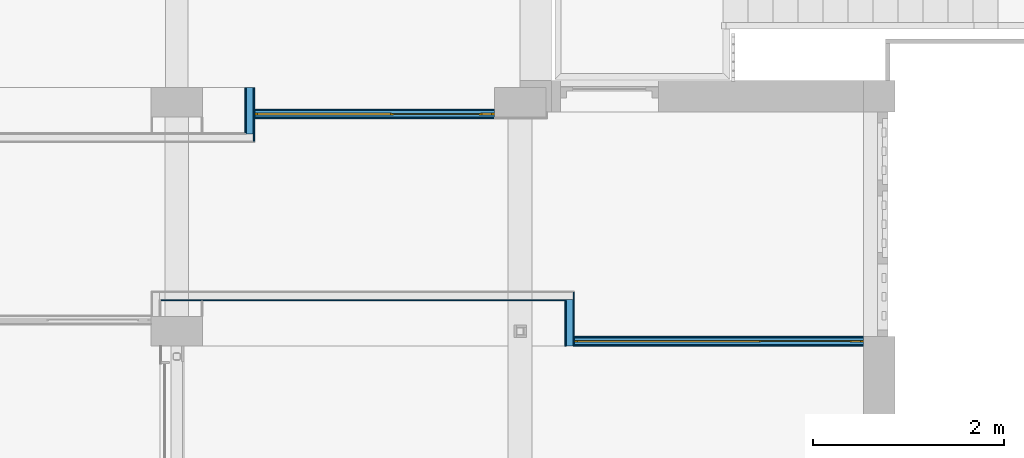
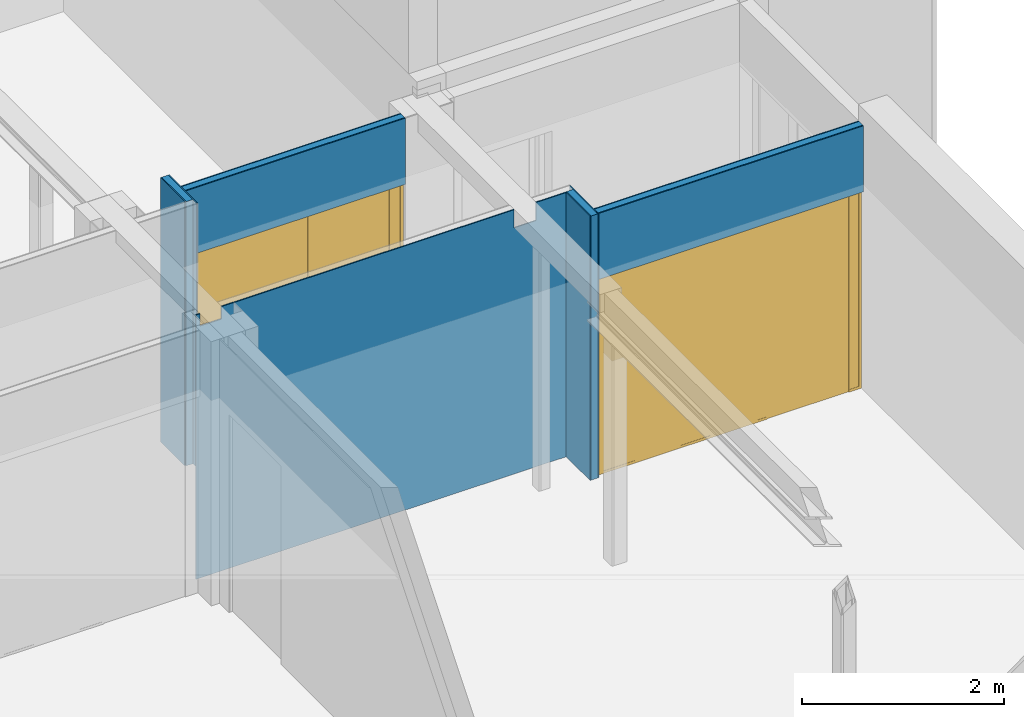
# One storey, part 87 of 117: 13 building element parts, 2 doors, 2 openings, 5 elements without a shape of their own.
"""IFC2X3 building model written with IfcOpenShell, lengths in millimetres."""

from ifc_helpers import new_model, entity, si_unit, converted_unit, derived_unit, money_unit, direction, frame, origin_with_axes, place, context, subcontext, project, spatial, open_shell, faceted_brep, surface_model, material, type_object, element, fill, aggregate, save


model = new_model("IFC2X3")

# Units and contexts
model_context = context("Model", 3, precision=0.01, world=origin_with_axes(), true_north=direction((0.0, 1.0)))
body_context = subcontext(model_context, "Body", "Model", "MODEL_VIEW")
ifc_project = project(units=[si_unit("LENGTHUNIT", "METRE", prefix="MILLI"), si_unit("AREAUNIT", "SQUARE_METRE"), si_unit("VOLUMEUNIT", "CUBIC_METRE"), converted_unit("PLANEANGLEUNIT", "DEGREE", entity("IfcPlaneAngleMeasure", 0.0174532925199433), si_unit("PLANEANGLEUNIT", "RADIAN"), dimensions=[0, 0, 0, 0, 0, 0, 0]), money_unit("EUR"), converted_unit("TIMEUNIT", "Year", entity("IfcTimeMeasure", 31557600.0), si_unit("TIMEUNIT", "SECOND"), dimensions=[0, 0, 1, 0, 0, 0, 0]), si_unit("MASSUNIT", "GRAM", prefix="KILO"), si_unit("THERMODYNAMICTEMPERATUREUNIT", "DEGREE_CELSIUS"), si_unit("LUMINOUSINTENSITYUNIT", "LUMEN"), si_unit("ENERGYUNIT", "JOULE", prefix="MEGA"), derived_unit("THERMALCONDUCTANCEUNIT", [(si_unit("POWERUNIT", "WATT"), 1), (si_unit("LENGTHUNIT", "METRE"), -1), (si_unit("THERMODYNAMICTEMPERATUREUNIT", "KELVIN"), -1)]), derived_unit("SPECIFICHEATCAPACITYUNIT", [(si_unit("ENERGYUNIT", "JOULE"), 1), (si_unit("MASSUNIT", "GRAM", prefix="KILO"), -1), (si_unit("THERMODYNAMICTEMPERATUREUNIT", "KELVIN"), -1)]), derived_unit("MASSDENSITYUNIT", [(si_unit("MASSUNIT", "GRAM", prefix="KILO"), 1), (si_unit("VOLUMEUNIT", "CUBIC_METRE"), -1)])], contexts=[model_context])

# Site, building, storey
site_placement = place(None, origin_with_axes())
site = spatial("IfcSite", under=ifc_project, at=site_placement, Name="Site", CompositionType="ELEMENT")
building_placement = place(site_placement, origin_with_axes())
building = spatial("IfcBuilding", under=site, at=building_placement, Name="Naam gebouw", CompositionType="ELEMENT")
storey_placement = place(building_placement, frame((0.0, 0.0, 4150.0), z_axis=(0.0, 0.0, 1.0), x_axis=(1.0, 0.0, 0.0)))
storey = spatial("IfcBuildingStorey", under=building, at=storey_placement, Name="1e verdieping N", CompositionType="ELEMENT", Elevation=4150.0)

# Door
door_style = type_object("IfcDoorStyle", Name="D1 zl2 27", ConstructionType="NOTDEFINED", OperationType="USERDEFINED", ParameterTakesPrecedence=False, Sizeable=False)
wall_4_placement = place(storey_placement, frame((51215.00000000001, 20305.91242510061, 0.0), z_axis=(0.0, 0.0, 1.0), x_axis=(1.0, 0.0, 0.0)))
opening_1_placement = place(wall_4_placement, frame((1257.499999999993, 0.0, 0.0), z_axis=(0.0, 0.0, 1.0), x_axis=(1.0, 0.0, 0.0)))
door_1_placement = place(opening_1_placement, frame((-1257.499999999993, 0.0, 0.0), z_axis=(0.0, 0.0, 1.0), x_axis=(1.0, 0.0, 0.0)))
door_1 = element("IfcDoor", 1, at=door_1_placement, inside=storey, type_object=door_style, Name="_Merk-x", ObjectType="DOOR", OverallHeight=2400.0, OverallWidth=2515.0, context=body_context, shape_type="SurfaceModel", body=[
    faceted_brep([(0.0, 9.99999999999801, 0.0), (30.00000000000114, 9.99999999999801, 0.0), (30.00000000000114, -10.00000000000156, 0.0), (0.0, -10.00000000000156, 0.0), (0.0, 9.99999999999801, 2370.0), (30.00000000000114, 9.99999999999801, 2370.0), (30.00000000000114, 9.99999999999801, 30.00000000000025), (30.00000000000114, -10.00000000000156, 30.00000000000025), (30.00000000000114, -10.00000000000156, 2370.0), (0.0, -10.00000000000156, 2370.0)], [[[0, 1, 2, 3]], [[0, 4, 5, 6, 1]], [[1, 6, 7, 2]], [[3, 2, 7, 8, 9]], [[4, 0, 3, 9]], [[5, 4, 9, 8]], [[6, 5, 8, 7]]]),
    faceted_brep([(1454.999999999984, -9.000000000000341, 0.0), (1454.999999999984, -9.000000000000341, 2370.0), (1454.999999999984, -10.00000000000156, 2370.0), (1454.999999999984, -10.00000000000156, 0.0), (1437.999999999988, -9.000000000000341, 2370.0), (1437.999999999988, -9.000000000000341, 0.0), (1437.999999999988, 9.99999999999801, 2370.0), (1424.999999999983, 9.99999999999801, 2370.0), (1424.999999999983, -10.00000000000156, 2370.0), (1424.999999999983, -10.00000000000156, 0.0), (1424.999999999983, -10.00000000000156, 30.00000000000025), (1424.999999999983, 9.99999999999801, 0.0), (1437.999999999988, 9.99999999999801, 0.0), (1424.999999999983, 9.99999999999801, 30.00000000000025)], [[[0, 1, 2, 3]], [[4, 1, 0, 5]], [[4, 6, 7, 8, 2, 1]], [[9, 3, 2, 8, 10]], [[5, 0, 3, 9, 11, 12]], [[6, 4, 5, 12]], [[6, 12, 11, 13, 7]], [[13, 10, 8, 7]], [[11, 9, 10, 13]]]),
    faceted_brep([(30.00000000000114, 9.99999999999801, 30.00000000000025), (30.00000000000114, 9.99999999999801, 0.0), (30.00000000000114, -10.00000000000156, 0.0), (30.00000000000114, -10.00000000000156, 30.00000000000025), (1424.999999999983, 9.99999999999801, 30.00000000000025), (1424.999999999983, 9.99999999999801, 0.0), (1424.999999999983, -10.00000000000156, 0.0), (1424.999999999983, -10.00000000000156, 30.00000000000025)], [[[0, 1, 2, 3]], [[0, 4, 5, 1]], [[1, 5, 6, 2]], [[3, 2, 6, 7]], [[4, 0, 3, 7]], [[5, 4, 7, 6]]]),
    faceted_brep([(2514.999999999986, 9.99999999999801, 0.0), (2514.999999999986, 9.99999999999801, 2370.0), (2514.999999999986, -10.00000000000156, 2370.0), (2514.999999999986, -10.00000000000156, 0.0), (2484.999999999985, 9.99999999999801, 0.0), (2484.999999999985, 9.99999999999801, 30.00000000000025), (2484.999999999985, 9.99999999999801, 2370.0), (2484.999999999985, -10.00000000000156, 2370.0), (2484.999999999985, -10.00000000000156, 30.00000000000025), (2484.999999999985, -10.00000000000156, 0.0)], [[[0, 1, 2, 3]], [[0, 4, 5, 6, 1]], [[1, 6, 7, 2]], [[3, 2, 7, 8, 9]], [[4, 0, 3, 9]], [[5, 4, 9, 8]], [[6, 5, 8, 7]]]),
    faceted_brep([(2371.999999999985, -9.000000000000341, 2370.0), (2354.999999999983, -9.000000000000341, 2370.0), (2354.999999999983, -10.00000000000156, 2370.0), (2384.999999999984, -10.00000000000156, 2370.0), (2384.999999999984, 9.99999999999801, 2370.0), (2371.999999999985, 9.99999999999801, 2370.0), (2371.999999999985, -9.000000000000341, 0.0), (2354.999999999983, -9.000000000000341, 0.0), (2354.999999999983, -10.00000000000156, 0.0), (2384.999999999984, -10.00000000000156, 0.0), (2384.999999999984, -10.00000000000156, 30.00000000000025), (2384.999999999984, 9.99999999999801, 30.00000000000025), (2371.999999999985, 9.99999999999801, 0.0), (2384.999999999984, 9.99999999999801, 0.0)], [[[0, 1, 2, 3, 4, 5]], [[1, 0, 6, 7]], [[1, 7, 8, 2]], [[8, 9, 10, 3, 2]], [[4, 3, 10, 11]], [[12, 5, 4, 11, 13]], [[0, 5, 12, 6]], [[6, 12, 13, 9, 8, 7]], [[11, 10, 9, 13]]]),
    faceted_brep([(2384.999999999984, 9.99999999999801, 30.00000000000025), (2384.999999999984, 9.99999999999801, 0.0), (2384.999999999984, -10.00000000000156, 0.0), (2384.999999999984, -10.00000000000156, 30.00000000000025), (2484.999999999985, 9.99999999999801, 30.00000000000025), (2484.999999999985, 9.99999999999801, 0.0), (2484.999999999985, -10.00000000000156, 0.0), (2484.999999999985, -10.00000000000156, 30.00000000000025)], [[[0, 1, 2, 3]], [[0, 4, 5, 1]], [[1, 5, 6, 2]], [[3, 2, 6, 7]], [[4, 0, 3, 7]], [[5, 4, 7, 6]]]),
    faceted_brep([(1437.999999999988, 9.99999999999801, 2387.0), (1437.999999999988, 9.99999999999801, 2370.0), (1424.999999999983, 9.99999999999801, 2370.0), (30.00000000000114, 9.99999999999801, 2370.0), (0.0, 9.99999999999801, 2370.0), (0.0, 9.99999999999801, 2400.0), (2514.999999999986, 9.99999999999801, 2400.0), (2514.999999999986, 9.99999999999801, 2370.0), (2484.999999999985, 9.99999999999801, 2370.0), (2384.999999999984, 9.99999999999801, 2370.0), (2371.999999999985, 9.99999999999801, 2370.0), (2371.999999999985, 9.99999999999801, 2387.0), (1437.999999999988, -9.000000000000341, 2387.0), (1437.999999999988, -9.000000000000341, 2370.0), (2354.999999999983, -9.000000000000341, 2370.0), (2354.999999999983, -10.00000000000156, 2370.0), (1454.999999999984, -10.00000000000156, 2370.0), (1424.999999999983, -10.00000000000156, 2370.0), (30.00000000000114, -10.00000000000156, 2370.0), (0.0, -10.00000000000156, 2370.0), (0.0, -10.00000000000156, 2400.0), (2514.999999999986, -10.00000000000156, 2400.0), (2514.999999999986, -10.00000000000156, 2370.0), (2484.999999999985, -10.00000000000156, 2370.0), (2371.999999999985, -9.000000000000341, 2370.0), (2384.999999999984, -10.00000000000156, 2370.0), (2371.999999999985, -9.000000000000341, 2387.0)], [[[0, 1, 2, 3, 4, 5, 6, 7, 8, 9, 10, 11]], [[1, 0, 12, 13]], [[13, 14, 15, 16, 17, 2, 1]], [[2, 17, 18, 3]], [[3, 18, 19, 4]], [[4, 19, 20, 5]], [[5, 20, 21, 6]], [[6, 21, 22, 7]], [[7, 22, 23, 8]], [[24, 10, 9, 8, 23, 25, 15, 14]], [[11, 10, 24, 26]], [[0, 11, 26, 12]], [[24, 14, 13, 12, 26]], [[23, 22, 21, 20, 19, 18, 17, 16, 15, 25]]]),
    faceted_brep([(2371.999999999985, 0.9999999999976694, 0.0), (2371.999999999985, -9.000000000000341, 0.0), (1437.999999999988, -9.000000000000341, 0.0), (1437.999999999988, 0.9999999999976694, 0.0), (2371.999999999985, 0.9999999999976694, 2387.0), (2371.999999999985, -9.000000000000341, 2387.0), (1437.999999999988, -9.000000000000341, 2387.0), (1437.999999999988, 0.9999999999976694, 2387.0)], [[[0, 1, 2, 3]], [[4, 5, 1, 0]], [[1, 5, 6, 2]], [[3, 2, 6, 7]], [[0, 3, 7, 4]], [[7, 6, 5, 4]]]),
    surface_model("IfcShellBasedSurfaceModel", [(30.00000000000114, 8.999999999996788, 30.00000000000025), (30.00000000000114, 8.999999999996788, 2370.0), (1424.999999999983, 8.999999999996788, 2370.0), (1424.999999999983, 8.999999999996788, 30.00000000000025)], [open_shell([[[0, 1, 2, 3]]])]),
    surface_model("IfcShellBasedSurfaceModel", [(30.00000000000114, 0.9999999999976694, 30.00000000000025), (1424.999999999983, 0.9999999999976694, 30.00000000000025), (1424.999999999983, 0.9999999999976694, 2370.0), (30.00000000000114, 0.9999999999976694, 2370.0)], [open_shell([[[0, 1, 2, 3]]])]),
    surface_model("IfcShellBasedSurfaceModel", [(2384.999999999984, 8.999999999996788, 30.00000000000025), (2384.999999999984, 8.999999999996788, 2370.0), (2484.999999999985, 8.999999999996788, 2370.0), (2484.999999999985, 8.999999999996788, 30.00000000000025)], [open_shell([[[0, 1, 2, 3]]])]),
    surface_model("IfcShellBasedSurfaceModel", [(2384.999999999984, 0.9999999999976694, 30.00000000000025), (2484.999999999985, 0.9999999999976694, 30.00000000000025), (2484.999999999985, 0.9999999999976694, 2370.0), (2384.999999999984, 0.9999999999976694, 2370.0)], [open_shell([[[0, 1, 2, 3]]])]),
])

wall_5_placement = place(storey_placement, frame((54569.99999999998, 17920.91242510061, 0.0), z_axis=(0.0, 0.0, 1.0), x_axis=(1.0, 0.0, 0.0)))
opening_2_placement = place(wall_5_placement, frame((1515.000000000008, 0.0, 0.0), z_axis=(0.0, 0.0, 1.0), x_axis=(1.0, 0.0, 0.0)))
door_2_placement = place(opening_2_placement, frame((1515.000000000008, 0.0, 0.0), z_axis=(0.0, 0.0, 1.0), x_axis=(-1.0, 0.0, 0.0)))
door_2 = element("IfcDoor", 2, at=door_2_placement, inside=storey, type_object=door_style, Name="_Merk-x", ObjectType="DOOR", OverallHeight=2400.0, OverallWidth=3030.0, context=body_context, shape_type="SurfaceModel", body=[
    faceted_brep([(3030.000000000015, 10.00000000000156, 0.0), (3030.000000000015, -9.99999999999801, 0.0), (3000.000000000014, -9.99999999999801, 0.0), (3000.000000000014, 10.00000000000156, 0.0), (3030.000000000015, 10.00000000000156, 2370.0), (3030.000000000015, -9.99999999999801, 2370.0), (3000.000000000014, -9.99999999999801, 2370.0), (3000.000000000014, -9.99999999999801, 30.00000000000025), (3000.000000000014, 10.00000000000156, 30.00000000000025), (3000.000000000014, 10.00000000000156, 2370.0)], [[[0, 1, 2, 3]], [[4, 5, 1, 0]], [[1, 5, 6, 7, 2]], [[3, 2, 7, 8]], [[0, 3, 8, 9, 4]], [[9, 6, 5, 4]], [[8, 7, 6, 9]]]),
    faceted_brep([(1060.000000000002, -8.999999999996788, 0.0), (1060.000000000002, -9.99999999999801, 0.0), (1060.000000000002, -9.99999999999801, 2370.0), (1060.000000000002, -8.999999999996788, 2370.0), (1076.999999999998, -8.999999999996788, 0.0), (1076.999999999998, 10.00000000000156, 0.0), (1090.000000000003, 10.00000000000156, 0.0), (1090.000000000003, -9.99999999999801, 0.0), (1090.000000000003, -9.99999999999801, 30.00000000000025), (1090.000000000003, -9.99999999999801, 2370.0), (1076.999999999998, -8.999999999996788, 2370.0), (1090.000000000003, 10.00000000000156, 2370.0), (1076.999999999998, 10.00000000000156, 2370.0), (1090.000000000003, 10.00000000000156, 30.00000000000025)], [[[0, 1, 2, 3]], [[4, 5, 6, 7, 1, 0]], [[7, 8, 9, 2, 1]], [[10, 3, 2, 9, 11, 12]], [[10, 4, 0, 3]], [[12, 5, 4, 10]], [[12, 11, 13, 6, 5]], [[6, 13, 8, 7]], [[13, 11, 9, 8]]]),
    faceted_brep([(3000.000000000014, 10.00000000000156, 30.00000000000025), (3000.000000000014, -9.99999999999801, 30.00000000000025), (3000.000000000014, -9.99999999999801, 0.0), (3000.000000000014, 10.00000000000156, 0.0), (1090.000000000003, 10.00000000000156, 30.00000000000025), (1090.000000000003, -9.99999999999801, 30.00000000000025), (1090.000000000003, -9.99999999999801, 0.0), (1090.000000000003, 10.00000000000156, 0.0)], [[[0, 1, 2, 3]], [[4, 5, 1, 0]], [[1, 5, 6, 2]], [[3, 2, 6, 7]], [[0, 3, 7, 4]], [[7, 6, 5, 4]]]),
    faceted_brep([(0.0, 10.00000000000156, 0.0), (0.0, -9.99999999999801, 0.0), (0.0, -9.99999999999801, 2370.0), (0.0, 10.00000000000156, 2370.0), (30.00000000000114, 10.00000000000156, 0.0), (30.00000000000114, -9.99999999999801, 0.0), (30.00000000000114, -9.99999999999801, 30.00000000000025), (30.00000000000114, -9.99999999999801, 2370.0), (30.00000000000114, 10.00000000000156, 2370.0), (30.00000000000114, 10.00000000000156, 30.00000000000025)], [[[0, 1, 2, 3]], [[4, 5, 1, 0]], [[1, 5, 6, 7, 2]], [[3, 2, 7, 8]], [[0, 3, 8, 9, 4]], [[9, 6, 5, 4]], [[8, 7, 6, 9]]]),
    faceted_brep([(143.0000000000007, -8.999999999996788, 2370.0), (143.0000000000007, 10.00000000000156, 2370.0), (130.0000000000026, 10.00000000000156, 2370.0), (130.0000000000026, -9.99999999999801, 2370.0), (160.0000000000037, -9.99999999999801, 2370.0), (160.0000000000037, -8.999999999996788, 2370.0), (143.0000000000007, -8.999999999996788, 0.0), (143.0000000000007, 10.00000000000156, 0.0), (130.0000000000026, 10.00000000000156, 0.0), (130.0000000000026, 10.00000000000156, 30.00000000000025), (130.0000000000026, -9.99999999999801, 30.00000000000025), (160.0000000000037, -9.99999999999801, 0.0), (130.0000000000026, -9.99999999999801, 0.0), (160.0000000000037, -8.999999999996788, 0.0)], [[[0, 1, 2, 3, 4, 5]], [[0, 6, 7, 1]], [[7, 8, 9, 2, 1]], [[2, 9, 10, 3]], [[11, 4, 3, 10, 12]], [[5, 4, 11, 13]], [[5, 13, 6, 0]], [[6, 13, 11, 12, 8, 7]], [[9, 8, 12, 10]]]),
    faceted_brep([(130.0000000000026, 10.00000000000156, 30.00000000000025), (130.0000000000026, -9.99999999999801, 30.00000000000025), (130.0000000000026, -9.99999999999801, 0.0), (130.0000000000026, 10.00000000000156, 0.0), (30.00000000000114, 10.00000000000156, 30.00000000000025), (30.00000000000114, -9.99999999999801, 30.00000000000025), (30.00000000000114, -9.99999999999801, 0.0), (30.00000000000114, 10.00000000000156, 0.0)], [[[0, 1, 2, 3]], [[4, 5, 1, 0]], [[1, 5, 6, 2]], [[3, 2, 6, 7]], [[0, 3, 7, 4]], [[7, 6, 5, 4]]]),
    faceted_brep([(1076.999999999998, 10.00000000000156, 2387.0), (143.0000000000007, 10.00000000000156, 2387.0), (143.0000000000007, 10.00000000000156, 2370.0), (130.0000000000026, 10.00000000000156, 2370.0), (30.00000000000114, 10.00000000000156, 2370.0), (0.0, 10.00000000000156, 2370.0), (0.0, 10.00000000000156, 2400.0), (3030.000000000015, 10.00000000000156, 2400.0), (3030.000000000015, 10.00000000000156, 2370.0), (3000.000000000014, 10.00000000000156, 2370.0), (1090.000000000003, 10.00000000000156, 2370.0), (1076.999999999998, 10.00000000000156, 2370.0), (1076.999999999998, -8.999999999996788, 2387.0), (143.0000000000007, -8.999999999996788, 2387.0), (143.0000000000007, -8.999999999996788, 2370.0), (160.0000000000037, -8.999999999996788, 2370.0), (160.0000000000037, -9.99999999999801, 2370.0), (130.0000000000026, -9.99999999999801, 2370.0), (30.00000000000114, -9.99999999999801, 2370.0), (0.0, -9.99999999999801, 2370.0), (0.0, -9.99999999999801, 2400.0), (3030.000000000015, -9.99999999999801, 2400.0), (3030.000000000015, -9.99999999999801, 2370.0), (3000.000000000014, -9.99999999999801, 2370.0), (1090.000000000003, -9.99999999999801, 2370.0), (1076.999999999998, -8.999999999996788, 2370.0), (1060.000000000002, -9.99999999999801, 2370.0)], [[[0, 1, 2, 3, 4, 5, 6, 7, 8, 9, 10, 11]], [[0, 12, 13, 1]], [[1, 13, 14, 2]], [[14, 15, 16, 17, 18, 4, 3, 2]], [[5, 4, 18, 19]], [[6, 5, 19, 20]], [[7, 6, 20, 21]], [[8, 7, 21, 22]], [[9, 8, 22, 23]], [[10, 9, 23, 24]], [[25, 11, 10, 24, 26, 16, 15]], [[11, 25, 12, 0]], [[14, 13, 12, 25, 15]], [[18, 17, 16, 26, 24, 23, 22, 21, 20, 19]]]),
    faceted_brep([(143.0000000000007, 1.000000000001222, 0.0), (1076.999999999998, 1.000000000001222, 0.0), (1076.999999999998, -8.999999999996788, 0.0), (143.0000000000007, -8.999999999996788, 0.0), (143.0000000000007, 1.000000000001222, 2387.0), (1076.999999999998, 1.000000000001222, 2387.0), (1076.999999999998, -9.000000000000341, 2387.0), (143.0000000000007, -8.999999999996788, 2387.0)], [[[0, 1, 2, 3]], [[0, 4, 5, 1]], [[1, 5, 6, 2]], [[3, 2, 6, 7]], [[4, 0, 3, 7]], [[5, 4, 7, 6]]]),
    surface_model("IfcShellBasedSurfaceModel", [(3000.000000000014, 9.000000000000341, 30.00000000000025), (1090.000000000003, 9.000000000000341, 30.00000000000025), (1090.000000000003, 9.000000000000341, 2370.0), (3000.000000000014, 9.000000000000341, 2370.0)], [open_shell([[[0, 1, 2, 3]]])]),
    surface_model("IfcShellBasedSurfaceModel", [(3000.000000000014, 1.000000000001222, 30.00000000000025), (3000.000000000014, 1.000000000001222, 2370.0), (1090.000000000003, 1.000000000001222, 2370.0), (1090.000000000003, 1.000000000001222, 30.00000000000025)], [open_shell([[[0, 1, 2, 3]]])]),
    surface_model("IfcShellBasedSurfaceModel", [(130.0000000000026, 9.000000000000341, 30.00000000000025), (30.00000000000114, 9.000000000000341, 30.00000000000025), (30.00000000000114, 9.000000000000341, 2370.0), (130.0000000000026, 9.000000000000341, 2370.0)], [open_shell([[[0, 1, 2, 3]]])]),
    surface_model("IfcShellBasedSurfaceModel", [(130.0000000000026, 1.000000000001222, 30.00000000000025), (130.0000000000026, 1.000000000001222, 2370.0), (30.00000000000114, 1.000000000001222, 2370.0), (30.00000000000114, 1.000000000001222, 30.00000000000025)], [open_shell([[[0, 1, 2, 3]]])]),
])

# Wall, building element parts
wall_type = type_object("IfcWallType", Name="Metalstud iso 100 100", PredefinedType="NOTDEFINED")
wall_1_placement = place(storey_placement, frame((54469.99999999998, 17870.91242510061, 0.0), z_axis=(0.0, 0.0, 1.0), x_axis=(0.0, 1.0, 0.0)))
wall_1 = element("IfcWall", 3, at=wall_1_placement, inside=storey, type_object=wall_type, Name="_Wand-x")
ifc_material_1 = material(Name="Gipsplaat")
building_element_part_1_placement = place(wall_1_placement, origin_with_axes())
building_element_part_1 = element("IfcBuildingElementPart", 4, at=building_element_part_1_placement, material=ifc_material_1, Name="Gipsplaat", context=body_context, shape_type="Brep", body=[
    faceted_brep([(474.9999999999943, 0.0, 3200.0), (474.9999999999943, -12.50000000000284, 3200.0), (474.9999999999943, -12.50000000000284, 0.0), (474.9999999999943, 0.0, 0.0), (0.0, -12.50000000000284, 3200.0), (0.0, 0.0, 3200.0), (0.0, -12.50000000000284, 0.0), (0.0, 0.0, 0.0)], [[[0, 1, 2, 3]], [[4, 1, 0, 5]], [[1, 4, 6, 2]], [[3, 2, 6, 7]], [[5, 0, 3, 7]], [[4, 5, 7, 6]]]),
])
ifc_material_2 = material(Name="Isolatie - Steenwol LSW")
building_element_part_2_placement = place(wall_1_placement, origin_with_axes())
building_element_part_2 = element("IfcBuildingElementPart", 5, at=building_element_part_2_placement, material=ifc_material_2, Name="Isolatie - Steenwol LSW", context=body_context, shape_type="Brep", body=[
    faceted_brep([(487.4999999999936, -12.50000000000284, 3200.0), (487.4999999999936, -87.49999999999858, 3200.0), (487.4999999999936, -87.49999999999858, 0.0), (487.4999999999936, -12.50000000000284, 0.0), (0.0, -87.49999999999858, 3200.0), (0.0, -12.50000000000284, 3200.0), (0.0, -87.49999999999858, 0.0), (0.0, -12.50000000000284, 0.0)], [[[0, 1, 2, 3]], [[4, 1, 0, 5]], [[1, 4, 6, 2]], [[3, 2, 6, 7]], [[5, 0, 3, 7]], [[4, 5, 7, 6]]]),
])
building_element_part_3_placement = place(wall_1_placement, origin_with_axes())
building_element_part_3 = element("IfcBuildingElementPart", 6, at=building_element_part_3_placement, material=ifc_material_1, Name="Gipsplaat", context=body_context, shape_type="Brep", body=[
    faceted_brep([(562.499999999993, -87.49999999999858, 3200.0), (562.499999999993, -100.0000000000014, 3200.0), (562.499999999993, -100.0000000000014, 0.0), (562.499999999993, -87.49999999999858, 0.0), (0.0, -100.0000000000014, 3200.0), (0.0, -87.49999999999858, 3200.0), (0.0, -100.0000000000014, 0.0), (0.0, -87.49999999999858, 0.0)], [[[0, 1, 2, 3]], [[4, 1, 0, 5]], [[1, 4, 6, 2]], [[3, 2, 6, 7]], [[5, 0, 3, 7]], [[4, 5, 7, 6]]]),
])
aggregate(wall_1, [building_element_part_1, building_element_part_2, building_element_part_3])

wall_2_placement = place(storey_placement, frame((51115.00000000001, 20580.91242510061, 0.0), z_axis=(0.0, 0.0, 1.0), x_axis=(0.0, -1.0, 0.0)))
wall_2 = element("IfcWall", 7, at=wall_2_placement, inside=storey, type_object=wall_type, Name="_Wand-x")
building_element_part_4_placement = place(wall_2_placement, origin_with_axes())
building_element_part_4 = element("IfcBuildingElementPart", 8, at=building_element_part_4_placement, material=ifc_material_1, Name="Gipsplaat", context=body_context, shape_type="Brep", body=[
    faceted_brep([(0.0, 87.49999999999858, 3200.0), (0.0, 100.0000000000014, 3200.0), (0.0, 100.0000000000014, 0.0), (0.0, 87.49999999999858, 0.0), (562.499999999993, 100.0000000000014, 3200.0), (562.499999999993, 87.49999999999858, 3200.0), (562.499999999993, 100.0000000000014, 0.0), (562.499999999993, 87.49999999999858, 0.0)], [[[0, 1, 2, 3]], [[4, 1, 0, 5]], [[1, 4, 6, 2]], [[6, 7, 3, 2]], [[5, 0, 3, 7]], [[4, 5, 7, 6]]]),
])
building_element_part_5_placement = place(wall_2_placement, origin_with_axes())
building_element_part_5 = element("IfcBuildingElementPart", 9, at=building_element_part_5_placement, material=ifc_material_1, Name="Gipsplaat", context=body_context, shape_type="Brep", body=[
    faceted_brep([(0.0, 0.0, 3200.0), (0.0, 12.50000000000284, 3200.0), (0.0, 12.50000000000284, 0.0), (0.0, 0.0, 0.0), (474.9999999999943, 12.50000000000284, 3200.0), (474.9999999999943, 0.0, 3200.0), (474.9999999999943, 12.50000000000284, 0.0), (474.9999999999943, 0.0, 0.0)], [[[0, 1, 2, 3]], [[4, 1, 0, 5]], [[1, 4, 6, 2]], [[6, 7, 3, 2]], [[5, 0, 3, 7]], [[4, 5, 7, 6]]]),
])
building_element_part_6_placement = place(wall_2_placement, origin_with_axes())
building_element_part_6 = element("IfcBuildingElementPart", 10, at=building_element_part_6_placement, material=ifc_material_2, Name="Isolatie - Steenwol LSW", context=body_context, shape_type="Brep", body=[
    faceted_brep([(0.0, 12.50000000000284, 3200.0), (0.0, 87.49999999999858, 3200.0), (0.0, 87.49999999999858, 0.0), (0.0, 12.50000000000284, 0.0), (487.4999999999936, 87.49999999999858, 3200.0), (487.4999999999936, 12.50000000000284, 3200.0), (487.4999999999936, 87.49999999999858, 0.0), (487.4999999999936, 12.50000000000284, 0.0)], [[[0, 1, 2, 3]], [[4, 1, 0, 5]], [[1, 4, 6, 2]], [[6, 7, 3, 2]], [[5, 0, 3, 7]], [[4, 5, 7, 6]]]),
])
aggregate(wall_2, [building_element_part_4, building_element_part_5, building_element_part_6])

# Wall, building element part
wall_3_placement = place(storey_placement, frame((50229.99999999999, 18345.9124251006, 0.0), z_axis=(0.0, 0.0, 1.0), x_axis=(1.0, 0.0, 0.0)))
wall_3 = element("IfcWall", 11, at=wall_3_placement, inside=storey, type_object=wall_type, Name="_Wand-x")
building_element_part_7_placement = place(wall_3_placement, origin_with_axes())
building_element_part_7 = element("IfcBuildingElementPart", 12, at=building_element_part_7_placement, material=ifc_material_1, Name="Gipsplaat", context=body_context, shape_type="Brep", body=[
    faceted_brep([(3644.999999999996, 12.49999999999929, 2980.0), (3894.999999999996, 12.49999999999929, 2980.0), (3894.999999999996, 12.49999999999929, 3200.0), (4252.499999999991, 12.49999999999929, 3200.0), (4252.499999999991, 12.49999999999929, 0.0), (0.0, 12.49999999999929, 0.0), (0.0, 12.49999999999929, 3200.0), (45.00000000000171, 12.49999999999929, 3200.0), (45.00000000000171, 12.49999999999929, 3049.999999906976), (295.0000000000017, 12.49999999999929, 3049.999999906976), (295.0000000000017, 12.49999999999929, 3200.0), (3644.999999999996, 12.49999999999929, 3200.0), (3644.999999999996, 0.0, 2980.0), (3894.999999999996, 0.0, 2980.0), (3894.999999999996, 0.0, 3200.0), (4252.499999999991, 0.0, 3200.0), (4252.499999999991, 0.0, 0.0), (0.0, 0.0, 0.0), (0.0, 0.0, 3200.0), (45.00000000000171, 0.0, 3200.0), (45.00000000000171, 0.0, 3049.999999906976), (295.0000000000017, 0.0, 3049.999999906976), (295.0000000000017, 0.0, 3200.0), (3644.999999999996, 0.0, 3200.0)], [[[0, 1, 2, 3, 4, 5, 6, 7, 8, 9, 10, 11]], [[1, 0, 12, 13]], [[14, 2, 1, 13]], [[2, 14, 15, 3]], [[4, 3, 15, 16]], [[5, 4, 16, 17]], [[17, 18, 6, 5]], [[19, 7, 6, 18]], [[8, 7, 19, 20]], [[9, 8, 20, 21]], [[22, 10, 9, 21]], [[23, 11, 10, 22]], [[0, 11, 23, 12]], [[12, 23, 22, 21, 20, 19, 18, 17, 16, 15, 14, 13]]]),
])
aggregate(wall_3, [building_element_part_7])

# Wall, opening
wall_4 = element("IfcWall", 13, at=wall_4_placement, inside=storey, type_object=wall_type, Name="_Wand-x")
opening_1 = element("IfcOpeningElement", 14, at=opening_1_placement, cuts=wall_4, Name="_Merk-x", context=body_context, shape_type="Brep", body=[
    faceted_brep([(-1257.499999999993, 9.99999999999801, 0.0), (-1257.499999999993, 9.99999999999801, 2400.0), (-1257.499999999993, 51.00000000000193, 2400.0), (-1257.499999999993, 51.00000000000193, 0.0), (-1257.499999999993, -51.00000000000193, 0.0), (-1257.499999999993, -51.00000000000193, 2400.0), (1257.499999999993, 9.99999999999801, 2400.0), (1257.499999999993, 51.00000000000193, 2400.0), (1257.499999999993, -51.00000000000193, 2400.0), (1257.499999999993, 51.00000000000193, 0.0), (1257.499999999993, 9.99999999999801, 0.0), (1257.499999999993, -51.00000000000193, 0.0)], [[[0, 1, 2, 3]], [[1, 0, 4, 5]], [[6, 7, 2, 1, 5, 8]], [[7, 9, 3, 2]], [[0, 3, 9, 10, 11, 4]], [[5, 4, 11, 8]], [[6, 10, 9, 7]], [[10, 6, 8, 11]]]),
])

fill(opening_1, door_1)

# Building element part
building_element_part_8_placement = place(wall_4_placement, origin_with_axes())
building_element_part_8 = element("IfcBuildingElementPart", 15, at=building_element_part_8_placement, material=ifc_material_2, Name="Isolatie - Steenwol LSW", context=body_context, shape_type="Brep", body=[
    faceted_brep([(2514.999999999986, -37.50000000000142, 2400.0), (2514.999999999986, 9.99999999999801, 2400.0), (2514.999999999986, 37.50000000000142, 2400.0), (2514.999999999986, 37.50000000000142, 3200.0), (2514.999999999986, -37.50000000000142, 3200.0), (0.0, -37.50000000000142, 2400.0), (0.0, 9.99999999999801, 2400.0), (0.0, 37.50000000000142, 2400.0), (0.0, 37.50000000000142, 3200.0), (0.0, -37.50000000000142, 3200.0)], [[[0, 1, 2, 3, 4]], [[1, 0, 5, 6, 7, 2]], [[7, 8, 3, 2]], [[3, 8, 9, 4]], [[5, 0, 4, 9]], [[6, 5, 9, 8, 7]]]),
])

building_element_part_9_placement = place(wall_4_placement, origin_with_axes())
building_element_part_9 = element("IfcBuildingElementPart", 16, at=building_element_part_9_placement, material=ifc_material_1, Name="Gipsplaat", context=body_context, shape_type="Brep", body=[
    faceted_brep([(2514.999999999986, 37.50000000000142, 2400.0), (2514.999999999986, 50.00000000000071, 2400.0), (2514.999999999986, 50.00000000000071, 3200.0), (2514.999999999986, 37.50000000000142, 3200.0), (0.0, 50.00000000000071, 2400.0), (0.0, 37.50000000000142, 2400.0), (0.0, 50.00000000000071, 3200.0), (0.0, 37.50000000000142, 3200.0)], [[[0, 1, 2, 3]], [[4, 1, 0, 5]], [[1, 4, 6, 2]], [[3, 2, 6, 7]], [[5, 0, 3, 7]], [[4, 5, 7, 6]]]),
])

building_element_part_10_placement = place(wall_4_placement, origin_with_axes())
building_element_part_10 = element("IfcBuildingElementPart", 17, at=building_element_part_10_placement, material=ifc_material_1, Name="Gipsplaat", context=body_context, shape_type="Brep", body=[
    faceted_brep([(2514.999999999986, -50.00000000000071, 2400.0), (2514.999999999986, -37.50000000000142, 2400.0), (2514.999999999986, -37.50000000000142, 3200.0), (2514.999999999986, -50.00000000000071, 3200.0), (0.0, -37.50000000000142, 2400.0), (0.0, -50.00000000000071, 2400.0), (0.0, -37.50000000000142, 3200.0), (0.0, -50.00000000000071, 3200.0)], [[[0, 1, 2, 3]], [[4, 1, 0, 5]], [[1, 4, 6, 2]], [[2, 6, 7, 3]], [[5, 0, 3, 7]], [[4, 5, 7, 6]]]),
])

aggregate(wall_4, [building_element_part_8, building_element_part_9, building_element_part_10])

# Wall, opening
wall_5 = element("IfcWall", 18, at=wall_5_placement, inside=storey, type_object=wall_type, Name="_Wand-x")
opening_2 = element("IfcOpeningElement", 19, at=opening_2_placement, cuts=wall_5, Name="_Merk-x", context=body_context, shape_type="Brep", body=[
    faceted_brep([(1515.000000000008, -10.00000000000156, 0.0), (1515.000000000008, -10.00000000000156, 2400.0), (1515.000000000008, -51.00000000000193, 2400.0), (1515.000000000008, -51.00000000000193, 0.0), (1515.000000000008, 51.00000000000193, 0.0), (1515.000000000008, 51.00000000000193, 2400.0), (-1515.000000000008, -10.00000000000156, 2400.0), (-1515.000000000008, -51.00000000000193, 2400.0), (-1515.000000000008, 51.00000000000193, 2400.0), (-1515.000000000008, -51.00000000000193, 0.0), (-1515.000000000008, -10.00000000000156, 0.0), (-1515.000000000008, 51.00000000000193, 0.0)], [[[0, 1, 2, 3]], [[1, 0, 4, 5]], [[6, 7, 2, 1, 5, 8]], [[7, 9, 3, 2]], [[0, 3, 9, 10, 11, 4]], [[5, 4, 11, 8]], [[6, 10, 9, 7]], [[10, 6, 8, 11]]]),
])

fill(opening_2, door_2)

# Building element part
building_element_part_11_placement = place(wall_5_placement, origin_with_axes())
building_element_part_11 = element("IfcBuildingElementPart", 20, at=building_element_part_11_placement, material=ifc_material_2, Name="Isolatie - Steenwol LSW", context=body_context, shape_type="Brep", body=[
    faceted_brep([(3030.000000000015, -10.00000000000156, 2400.0), (3030.000000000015, 37.50000000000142, 2400.0), (3030.000000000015, 37.50000000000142, 3200.0), (3030.000000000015, -37.49999999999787, 3200.0), (3030.000000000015, -37.49999999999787, 2400.0), (0.0, -10.00000000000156, 2400.0), (0.0, 37.50000000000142, 2400.0), (0.0, -37.50000000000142, 2400.0), (0.0, 37.50000000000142, 3200.0), (0.0, -37.50000000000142, 3200.0)], [[[0, 1, 2, 3, 4]], [[5, 6, 1, 0, 4, 7]], [[1, 6, 8, 2]], [[9, 3, 2, 8]], [[4, 3, 9, 7]], [[6, 5, 7, 9, 8]]]),
])

building_element_part_12_placement = place(wall_5_placement, origin_with_axes())
building_element_part_12 = element("IfcBuildingElementPart", 21, at=building_element_part_12_placement, material=ifc_material_1, Name="Gipsplaat", context=body_context, shape_type="Brep", body=[
    faceted_brep([(3030.000000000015, -50.00000000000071, 2400.0), (3030.000000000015, -37.49999999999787, 2400.0), (3030.000000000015, -37.49999999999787, 3200.0), (3030.000000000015, -50.00000000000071, 3200.0), (0.0, -37.50000000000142, 2400.0), (0.0, -50.00000000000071, 2400.0), (0.0, -37.50000000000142, 3200.0), (0.0, -50.00000000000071, 3200.0)], [[[0, 1, 2, 3]], [[4, 1, 0, 5]], [[1, 4, 6, 2]], [[6, 7, 3, 2]], [[5, 0, 3, 7]], [[4, 5, 7, 6]]]),
])

building_element_part_13_placement = place(wall_5_placement, origin_with_axes())
building_element_part_13 = element("IfcBuildingElementPart", 22, at=building_element_part_13_placement, material=ifc_material_1, Name="Gipsplaat", context=body_context, shape_type="Brep", body=[
    faceted_brep([(3030.000000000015, 37.50000000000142, 2400.0), (3030.000000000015, 50.00000000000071, 2400.0), (3030.000000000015, 50.00000000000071, 3200.0), (3030.000000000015, 37.50000000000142, 3200.0), (0.0, 50.00000000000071, 2400.0), (0.0, 37.50000000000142, 2400.0), (0.0, 50.00000000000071, 3200.0), (0.0, 37.50000000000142, 3200.0)], [[[0, 1, 2, 3]], [[4, 1, 0, 5]], [[1, 4, 6, 2]], [[6, 7, 3, 2]], [[5, 0, 3, 7]], [[4, 5, 7, 6]]]),
])

aggregate(wall_5, [building_element_part_11, building_element_part_12, building_element_part_13])

save(model, "model.ifc")
